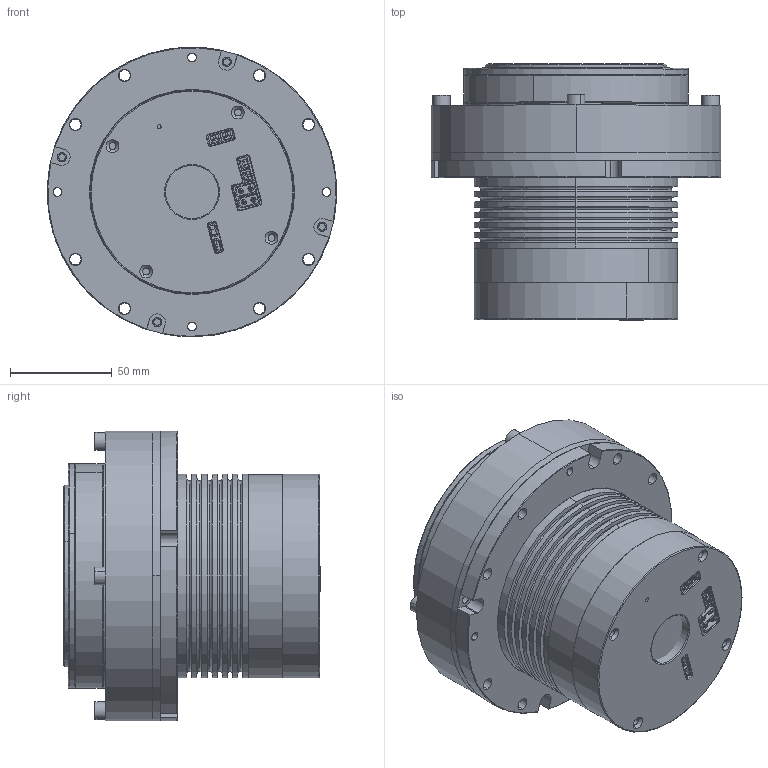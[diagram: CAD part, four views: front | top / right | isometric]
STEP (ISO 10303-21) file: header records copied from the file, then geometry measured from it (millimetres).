
FILE_DESCRIPTION (( 'STEP AP203' ), '1' );
FILE_NAME ('1MT.055.027（RH-32-100-E-B 一体化谐波减速模组-双编+抱闸+ECAT）.STEP', '2024-10-30T03:57:20', ( '' ), ( '' ), 'SwSTEP 2.0', 'SolidWorks 2020', '' );
FILE_SCHEMA (( 'CONFIG_CONTROL_DESIGN' ));
Length unit declared in the file: millimetre
Products named in the file (1): 1MT.055.027（RH-32-100-E-B 一体化谐波减速模组-双编+抱闸+ECAT）
Bounding box: 142 x 125.54 x 142 mm (x, y, z)
Surface area: 144187.1 mm2 (no closed solid volume)
Topology: 0 solids, 48 shells, 614 faces, 2717 edges, 2159 vertices
Faces by surface type: plane 296, cylinder 223, cone 47, torus 32, bspline 16
Entity records: 28756 total; most frequent: CARTESIAN_POINT 6319, DIRECTION 4762, ORIENTED_EDGE 3840, EDGE_CURVE 2717, VERTEX_POINT 2159, VECTOR 1594, LINE 1594, AXIS2_PLACEMENT_3D 1584
